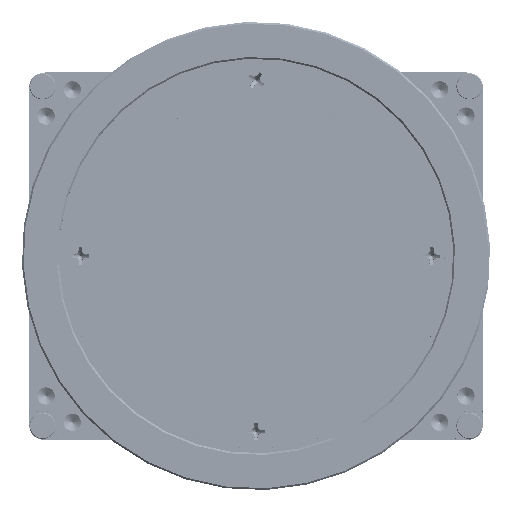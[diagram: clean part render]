
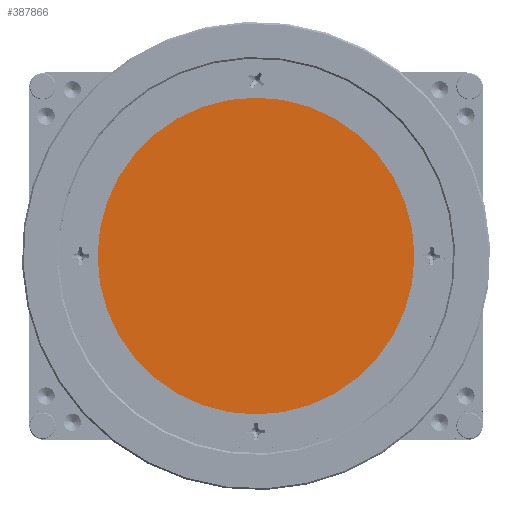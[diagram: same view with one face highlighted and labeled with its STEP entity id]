
A CAD part, top view. The second image highlights one B-rep face of the part: STEP entity #387866.
In plain terms, the highlighted planar face has unit normal (0, 0, 1).
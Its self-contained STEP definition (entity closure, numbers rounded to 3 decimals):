
#59659 = CARTESIAN_POINT ( 'NONE',  ( -23.5, 0., 9.4 ) ) ;
#71273 = AXIS2_PLACEMENT_3D ( 'NONE', #399829, #566344, #563962 ) ;
#180919 = PLANE ( 'NONE',  #71273 ) ;
#184635 = FACE_OUTER_BOUND ( 'NONE', #405979, .T. ) ;
#206920 = CIRCLE ( 'NONE', #653449, 23.5 ) ;
#264883 = DIRECTION ( 'NONE',  ( 0., 0., 1. ) ) ;
#271871 = VERTEX_POINT ( 'NONE', #59659 ) ;
#301431 = VERTEX_POINT ( 'NONE', #491613 ) ;
#323254 = EDGE_CURVE ( 'NONE', #301431, #271871, #531910, .T. ) ;
#364188 = ORIENTED_EDGE ( 'NONE', *, *, #323254, .T. ) ;
#374483 = DIRECTION ( 'NONE',  ( -1., 0., 0. ) ) ;
#387866 = ADVANCED_FACE ( 'NONE', ( #184635 ), #180919, .T. ) ;
#399829 = CARTESIAN_POINT ( 'NONE',  ( 0., 0., 9.4 ) ) ;
#405979 = EDGE_LOOP ( 'NONE', ( #364188, #659980 ) ) ;
#408787 = AXIS2_PLACEMENT_3D ( 'NONE', #665832, #670548, #620423 ) ;
#491613 = CARTESIAN_POINT ( 'NONE',  ( 23.5, 0., 9.4 ) ) ;
#531910 = CIRCLE ( 'NONE', #408787, 23.5 ) ;
#563962 = DIRECTION ( 'NONE',  ( -1., 0., 0. ) ) ;
#566344 = DIRECTION ( 'NONE',  ( 0., 0., 1. ) ) ;
#586279 = CARTESIAN_POINT ( 'NONE',  ( 0., 0., 9.4 ) ) ;
#620423 = DIRECTION ( 'NONE',  ( -1., 0., 0. ) ) ;
#641733 = EDGE_CURVE ( 'NONE', #271871, #301431, #206920, .T. ) ;
#653449 = AXIS2_PLACEMENT_3D ( 'NONE', #586279, #264883, #374483 ) ;
#659980 = ORIENTED_EDGE ( 'NONE', *, *, #641733, .T. ) ;
#665832 = CARTESIAN_POINT ( 'NONE',  ( 0., 0., 9.4 ) ) ;
#670548 = DIRECTION ( 'NONE',  ( 0., 0., 1. ) ) ;
